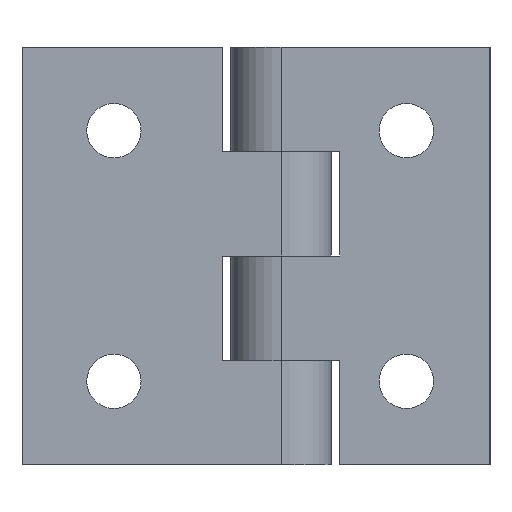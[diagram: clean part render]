
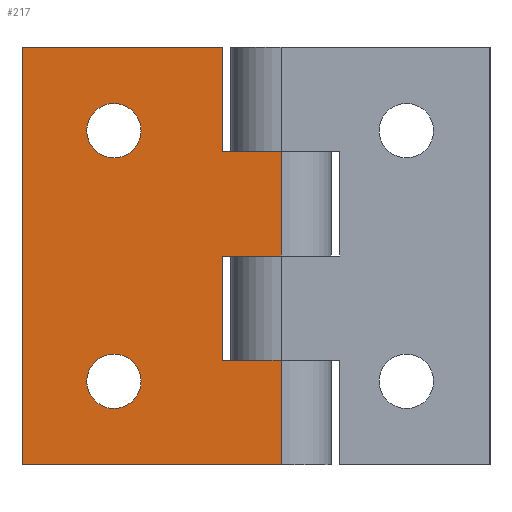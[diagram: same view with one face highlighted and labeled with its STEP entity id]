
A CAD part, front view. The second image highlights one B-rep face of the part: STEP entity #217.
In plain terms, the highlighted planar face has unit normal (0, -1, 0).
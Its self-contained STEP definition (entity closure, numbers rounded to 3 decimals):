
#15 = ORIENTED_EDGE ( 'NONE', *, *, #742, .T. ) ;
#26 = ORIENTED_EDGE ( 'NONE', *, *, #2398, .F. ) ;
#37 = LINE ( 'NONE', #1432, #967 ) ;
#83 = VERTEX_POINT ( 'NONE', #519 ) ;
#91 = AXIS2_PLACEMENT_3D ( 'NONE', #891, #654, #420 ) ;
#123 = CARTESIAN_POINT ( 'NONE',  ( 18., 14., -12.5 ) ) ;
#124 = CARTESIAN_POINT ( 'NONE',  ( 22.515, 14., 25. ) ) ;
#151 = CIRCLE ( 'NONE', #1418, 3.25 ) ;
#156 = CARTESIAN_POINT ( 'NONE',  ( 31., 14., 0. ) ) ;
#182 = DIRECTION ( 'NONE',  ( 0., 1., 0. ) ) ;
#184 = LINE ( 'NONE', #2338, #190 ) ;
#190 = VECTOR ( 'NONE', #2088, 1000. ) ;
#217 = ADVANCED_FACE ( 'NONE', ( #2198, #1803, #1779 ), #1133, .F. ) ;
#308 = CARTESIAN_POINT ( 'NONE',  ( 25., 14., -12.5 ) ) ;
#313 = DIRECTION ( 'NONE',  ( 1., 0., 0. ) ) ;
#342 = VECTOR ( 'NONE', #2303, 1000. ) ;
#386 = ORIENTED_EDGE ( 'NONE', *, *, #1941, .F. ) ;
#391 = LINE ( 'NONE', #156, #342 ) ;
#417 = CARTESIAN_POINT ( 'NONE',  ( 5., 14., -15. ) ) ;
#420 = DIRECTION ( 'NONE',  ( -1., 0., 0. ) ) ;
#430 = CARTESIAN_POINT ( 'NONE',  ( -6., 14., 25. ) ) ;
#519 = CARTESIAN_POINT ( 'NONE',  ( 25., 14., -25. ) ) ;
#543 = CARTESIAN_POINT ( 'NONE',  ( 31., 14., 12.5 ) ) ;
#573 = DIRECTION ( 'NONE',  ( 1., 0., 0. ) ) ;
#599 = ORIENTED_EDGE ( 'NONE', *, *, #1536, .F. ) ;
#601 = CARTESIAN_POINT ( 'NONE',  ( 18., 14., 12.5 ) ) ;
#603 = CARTESIAN_POINT ( 'NONE',  ( 5., 14., 15. ) ) ;
#636 = DIRECTION ( 'NONE',  ( -1., 0., 0. ) ) ;
#654 = DIRECTION ( 'NONE',  ( 0., 1., 0. ) ) ;
#666 = CARTESIAN_POINT ( 'NONE',  ( -6., 14., -25. ) ) ;
#674 = EDGE_CURVE ( 'NONE', #1854, #83, #1042, .T. ) ;
#715 = EDGE_CURVE ( 'NONE', #1404, #1325, #37, .T. ) ;
#742 = EDGE_CURVE ( 'NONE', #1731, #2079, #1727, .T. ) ;
#774 = LINE ( 'NONE', #543, #870 ) ;
#783 = DIRECTION ( 'NONE',  ( -1., 0., 0. ) ) ;
#798 = CIRCLE ( 'NONE', #1347, 3.25 ) ;
#805 = CARTESIAN_POINT ( 'NONE',  ( 22.515, 14., -25. ) ) ;
#866 = EDGE_CURVE ( 'NONE', #1269, #1673, #184, .T. ) ;
#870 = VECTOR ( 'NONE', #313, 1000. ) ;
#873 = DIRECTION ( 'NONE',  ( 0., 1., 0. ) ) ;
#877 = DIRECTION ( 'NONE',  ( -1., 0., 0. ) ) ;
#891 = CARTESIAN_POINT ( 'NONE',  ( 22.515, 14., 25. ) ) ;
#912 = VECTOR ( 'NONE', #2274, 1000. ) ;
#948 = EDGE_LOOP ( 'NONE', ( #1372, #1274, #599, #386, #2341, #2234, #1752, #26, #1165, #2093 ) ) ;
#955 = CARTESIAN_POINT ( 'NONE',  ( 18., 14., 25. ) ) ;
#967 = VECTOR ( 'NONE', #1181, 1000. ) ;
#984 = AXIS2_PLACEMENT_3D ( 'NONE', #1371, #1117, #877 ) ;
#1022 = DIRECTION ( 'NONE',  ( 0., 1., 0. ) ) ;
#1031 = VECTOR ( 'NONE', #573, 1000. ) ;
#1042 = LINE ( 'NONE', #805, #1031 ) ;
#1079 = DIRECTION ( 'NONE',  ( 0., 0., -1. ) ) ;
#1115 = CARTESIAN_POINT ( 'NONE',  ( 5., 14., 15. ) ) ;
#1117 = DIRECTION ( 'NONE',  ( 0., 1., 0. ) ) ;
#1129 = CARTESIAN_POINT ( 'NONE',  ( 8.25, 14., 15. ) ) ;
#1133 = PLANE ( 'NONE',  #91 ) ;
#1139 = DIRECTION ( 'NONE',  ( 0., 0., -1. ) ) ;
#1141 = CARTESIAN_POINT ( 'NONE',  ( 25., 14., 0. ) ) ;
#1146 = DIRECTION ( 'NONE',  ( 0., 0., -1. ) ) ;
#1158 = EDGE_CURVE ( 'NONE', #1535, #1247, #798, .T. ) ;
#1165 = ORIENTED_EDGE ( 'NONE', *, *, #1737, .T. ) ;
#1181 = DIRECTION ( 'NONE',  ( 0., 0., -1. ) ) ;
#1247 = VERTEX_POINT ( 'NONE', #1129 ) ;
#1250 = EDGE_CURVE ( 'NONE', #2079, #1731, #1738, .T. ) ;
#1260 = EDGE_LOOP ( 'NONE', ( #1777, #1957 ) ) ;
#1269 = VERTEX_POINT ( 'NONE', #123 ) ;
#1274 = ORIENTED_EDGE ( 'NONE', *, *, #866, .F. ) ;
#1284 = VERTEX_POINT ( 'NONE', #1514 ) ;
#1325 = VERTEX_POINT ( 'NONE', #1141 ) ;
#1330 = CARTESIAN_POINT ( 'NONE',  ( -6., 14., 25. ) ) ;
#1347 = AXIS2_PLACEMENT_3D ( 'NONE', #1115, #873, #636 ) ;
#1360 = ORIENTED_EDGE ( 'NONE', *, *, #1250, .T. ) ;
#1371 = CARTESIAN_POINT ( 'NONE',  ( 5., 14., -15. ) ) ;
#1372 = ORIENTED_EDGE ( 'NONE', *, *, #1721, .F. ) ;
#1392 = CARTESIAN_POINT ( 'NONE',  ( 25., 14., 25. ) ) ;
#1402 = CARTESIAN_POINT ( 'NONE',  ( 18., 14., 25. ) ) ;
#1404 = VERTEX_POINT ( 'NONE', #1921 ) ;
#1418 = AXIS2_PLACEMENT_3D ( 'NONE', #603, #1022, #783 ) ;
#1432 = CARTESIAN_POINT ( 'NONE',  ( 25., 14., 25. ) ) ;
#1514 = CARTESIAN_POINT ( 'NONE',  ( 18., 14., 0. ) ) ;
#1535 = VERTEX_POINT ( 'NONE', #2317 ) ;
#1536 = EDGE_CURVE ( 'NONE', #1284, #1269, #2069, .T. ) ;
#1561 = VECTOR ( 'NONE', #1146, 1000. ) ;
#1562 = DIRECTION ( 'NONE',  ( 0., 0., -1. ) ) ;
#1590 = LINE ( 'NONE', #1330, #2357 ) ;
#1646 = EDGE_LOOP ( 'NONE', ( #15, #1360 ) ) ;
#1649 = LINE ( 'NONE', #1392, #2040 ) ;
#1655 = LINE ( 'NONE', #1402, #1561 ) ;
#1673 = VERTEX_POINT ( 'NONE', #308 ) ;
#1721 = EDGE_CURVE ( 'NONE', #1673, #83, #1649, .T. ) ;
#1727 = CIRCLE ( 'NONE', #984, 3.25 ) ;
#1731 = VERTEX_POINT ( 'NONE', #2344 ) ;
#1737 = EDGE_CURVE ( 'NONE', #1840, #1854, #1590, .T. ) ;
#1738 = CIRCLE ( 'NONE', #2304, 3.25 ) ;
#1745 = VERTEX_POINT ( 'NONE', #601 ) ;
#1752 = ORIENTED_EDGE ( 'NONE', *, *, #2030, .F. ) ;
#1777 = ORIENTED_EDGE ( 'NONE', *, *, #1158, .T. ) ;
#1779 = FACE_OUTER_BOUND ( 'NONE', #948, .T. ) ;
#1791 = CARTESIAN_POINT ( 'NONE',  ( 8.25, 14., -15. ) ) ;
#1796 = VERTEX_POINT ( 'NONE', #955 ) ;
#1803 = FACE_BOUND ( 'NONE', #1646, .T. ) ;
#1820 = CARTESIAN_POINT ( 'NONE',  ( 18., 14., 0. ) ) ;
#1840 = VERTEX_POINT ( 'NONE', #430 ) ;
#1854 = VERTEX_POINT ( 'NONE', #666 ) ;
#1878 = EDGE_CURVE ( 'NONE', #1247, #1535, #151, .T. ) ;
#1921 = CARTESIAN_POINT ( 'NONE',  ( 25., 14., 12.5 ) ) ;
#1941 = EDGE_CURVE ( 'NONE', #1325, #1284, #391, .T. ) ;
#1957 = ORIENTED_EDGE ( 'NONE', *, *, #1878, .T. ) ;
#1986 = EDGE_CURVE ( 'NONE', #1745, #1404, #774, .T. ) ;
#2030 = EDGE_CURVE ( 'NONE', #1796, #1745, #1655, .T. ) ;
#2040 = VECTOR ( 'NONE', #1139, 1000. ) ;
#2069 = LINE ( 'NONE', #1820, #2211 ) ;
#2079 = VERTEX_POINT ( 'NONE', #1791 ) ;
#2087 = LINE ( 'NONE', #124, #912 ) ;
#2088 = DIRECTION ( 'NONE',  ( 1., 0., 0. ) ) ;
#2093 = ORIENTED_EDGE ( 'NONE', *, *, #674, .T. ) ;
#2198 = FACE_BOUND ( 'NONE', #1260, .T. ) ;
#2211 = VECTOR ( 'NONE', #1562, 1000. ) ;
#2234 = ORIENTED_EDGE ( 'NONE', *, *, #1986, .F. ) ;
#2274 = DIRECTION ( 'NONE',  ( 1., 0., 0. ) ) ;
#2303 = DIRECTION ( 'NONE',  ( -1., 0., 0. ) ) ;
#2304 = AXIS2_PLACEMENT_3D ( 'NONE', #417, #182, #2335 ) ;
#2317 = CARTESIAN_POINT ( 'NONE',  ( 1.75, 14., 15. ) ) ;
#2335 = DIRECTION ( 'NONE',  ( -1., 0., 0. ) ) ;
#2338 = CARTESIAN_POINT ( 'NONE',  ( 31., 14., -12.5 ) ) ;
#2341 = ORIENTED_EDGE ( 'NONE', *, *, #715, .F. ) ;
#2344 = CARTESIAN_POINT ( 'NONE',  ( 1.75, 14., -15. ) ) ;
#2357 = VECTOR ( 'NONE', #1079, 1000. ) ;
#2398 = EDGE_CURVE ( 'NONE', #1840, #1796, #2087, .T. ) ;
